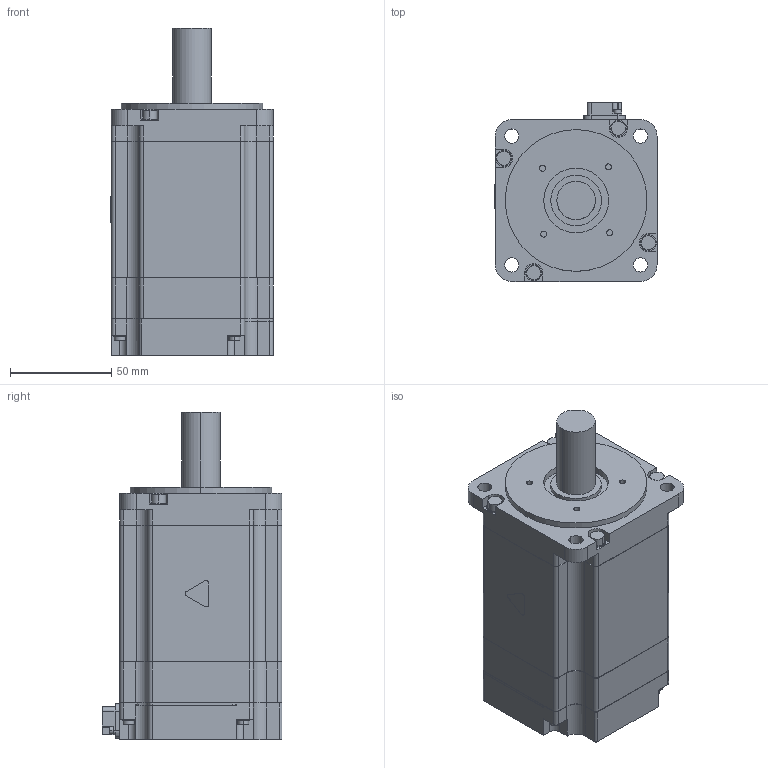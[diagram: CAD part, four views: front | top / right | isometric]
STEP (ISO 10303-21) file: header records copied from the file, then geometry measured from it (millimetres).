
FILE_DESCRIPTION((''),'2;1');
FILE_NAME('SGM7A-10A','2013-11-20T',('shibuya'),('YASKAWA ELECTRIC CORCORATION'),'PRO/ENGINEER BY PARAMETRIC TECHNOLOGY CORPORATION, 2011490','PRO/ENGINEER BY PARAMETRIC TECHNOLOGY CORPORATION, 2011490','');
FILE_SCHEMA(('AUTOMOTIVE_DESIGN { 1 0 10303 214 1 1 1 1 }'));
Length unit declared in the file: millimetre
Products named in the file (1): SGM7A-10A
Bounding box: 80.1 x 88.8 x 161.6 mm (x, y, z)
Volume: 707111 mm3; surface area: 56799.2 mm2
Topology: 1 solids, 5 shells, 426 faces, 1117 edges, 744 vertices
Faces by surface type: plane 231, cylinder 195
Entity records: 18567 total; most frequent: DIRECTION 2365, CARTESIAN_POINT 2314, ORIENTED_EDGE 2230, EDGE_CURVE 1117, FILL_AREA_STYLE_COLOUR 850, FILL_AREA_STYLE 850, SURFACE_STYLE_FILL_AREA 850, SURFACE_SIDE_STYLE 850
